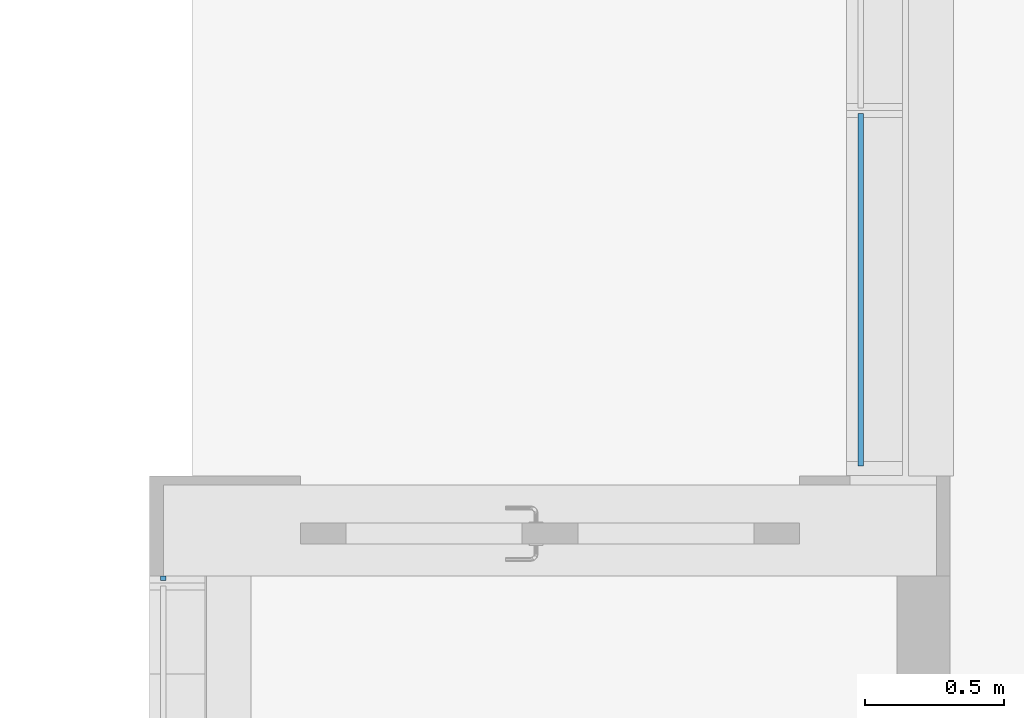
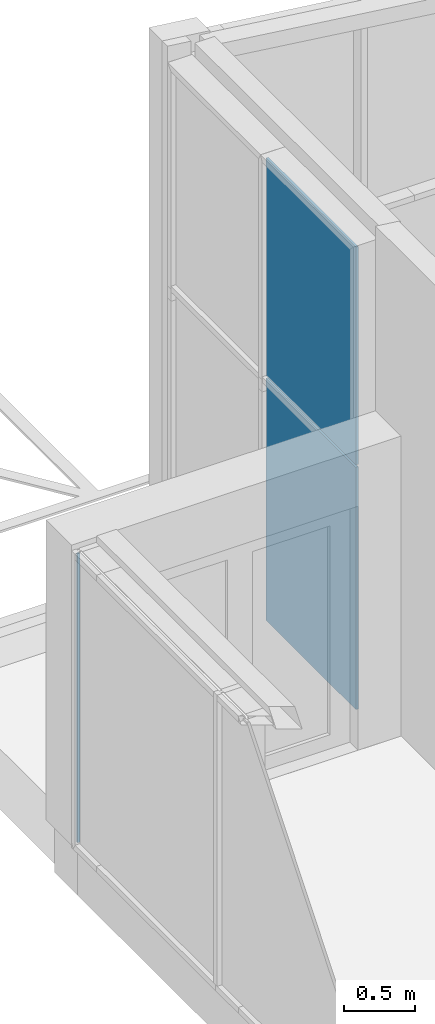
# One storey, part 78 of 301: 3 plates, 2 elements without a shape of their own.
"""IFC2X3 building model written with IfcOpenShell, lengths in millimetres."""

from ifc_helpers import new_model, entity, si_unit, converted_unit, derived_unit, money_unit, direction, frame, origin_with_axes, place, context, subcontext, project, spatial, faceted_brep, material, type_object, element, aggregate, save


model = new_model("IFC2X3")

# Units and contexts
model_context = context("Model", 3, precision=0.01, world=origin_with_axes(), true_north=direction((0.0, 1.0)))
body_context = subcontext(model_context, "Body", "Model", "MODEL_VIEW")
ifc_project = project(units=[si_unit("LENGTHUNIT", "METRE", prefix="MILLI"), si_unit("AREAUNIT", "SQUARE_METRE"), si_unit("VOLUMEUNIT", "CUBIC_METRE"), converted_unit("PLANEANGLEUNIT", "DEGREE", entity("IfcPlaneAngleMeasure", 0.0174532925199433), si_unit("PLANEANGLEUNIT", "RADIAN"), dimensions=[0, 0, 0, 0, 0, 0, 0]), money_unit("EUR"), converted_unit("TIMEUNIT", "Year", entity("IfcTimeMeasure", 31557600.0), si_unit("TIMEUNIT", "SECOND"), dimensions=[0, 0, 1, 0, 0, 0, 0]), si_unit("MASSUNIT", "GRAM", prefix="KILO"), si_unit("THERMODYNAMICTEMPERATUREUNIT", "DEGREE_CELSIUS"), si_unit("LUMINOUSINTENSITYUNIT", "LUMEN"), si_unit("ENERGYUNIT", "JOULE", prefix="MEGA"), derived_unit("THERMALCONDUCTANCEUNIT", [(si_unit("POWERUNIT", "WATT"), 1), (si_unit("LENGTHUNIT", "METRE"), -1), (si_unit("THERMODYNAMICTEMPERATUREUNIT", "KELVIN"), -1)]), derived_unit("SPECIFICHEATCAPACITYUNIT", [(si_unit("ENERGYUNIT", "JOULE"), 1), (si_unit("MASSUNIT", "GRAM", prefix="KILO"), -1), (si_unit("THERMODYNAMICTEMPERATUREUNIT", "KELVIN"), -1)]), derived_unit("MASSDENSITYUNIT", [(si_unit("MASSUNIT", "GRAM", prefix="KILO"), 1), (si_unit("VOLUMEUNIT", "CUBIC_METRE"), -1)])], contexts=[model_context])

# Site, building, storey
site_placement = place(None, frame((0.0, 0.0, 8650.0), z_axis=(0.0, 0.0, 1.0), x_axis=(1.0, 0.0, 0.0)))
site = spatial("IfcSite", under=ifc_project, at=site_placement, Name="43301:001:0844", CompositionType="ELEMENT")
building_placement = place(site_placement, origin_with_axes())
building = spatial("IfcBuilding", under=site, at=building_placement, Name="Kuressaare Ametikooli tuulikute mehaanikute õppekorpus", CompositionType="ELEMENT")
storey_placement = place(building_placement, origin_with_axes())
storey = spatial("IfcBuildingStorey", under=building, at=storey_placement, Name="1.korrus", CompositionType="ELEMENT", Elevation=0.0)

# Curtain wall, plate
curtain_wall_type = type_object("IfcCurtainWallType", Name="Curtain Wall Type", PredefinedType="NOTDEFINED")
curtain_wall_1_placement = place(storey_placement, frame((118344.5490393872, 39517.28066569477, -20.0), z_axis=(0.0, 0.0, 1.0), x_axis=(1.0, 0.0, 0.0)))
curtain_wall_1 = element("IfcCurtainWall", 1, at=curtain_wall_1_placement, inside=storey, type_object=curtain_wall_type, Name="KF-XX")
ifc_material = material(Name="Klaas")
plate_type_1 = type_object("IfcPlateType", Name="Main Panel 15 x 2485 x 20", PredefinedType="NOTDEFINED")
plate_1_placement = place(curtain_wall_1_placement, frame((0.0, 789.0288815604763, 1265.0000199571), z_axis=(0.0, 0.0, 1.0), x_axis=(0.0, 1.0, 0.0)))
plate_1 = element("IfcPlate", 2, at=plate_1_placement, type_object=plate_type_1, material=ifc_material, context=body_context, shape_type="Brep", body=[
    faceted_brep([(-2.475455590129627, -10.00000000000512, 1255.000026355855), (12.47544944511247, -10.00000000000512, 1255.000026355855), (12.47544944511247, 10.00000000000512, 1255.000026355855), (-2.475455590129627, 10.00000000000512, 1255.000026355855), (-2.475455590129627, -10.00000000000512, -1230.000004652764), (12.47544944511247, -10.00000000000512, -1230.000004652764), (12.47544944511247, 10.00000000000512, -1230.000004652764), (-2.475455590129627, 10.00000000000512, -1230.000004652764)], [[[0, 1, 2, 3]], [[0, 4, 5, 1]], [[1, 5, 6, 2]], [[3, 2, 6, 7]], [[4, 0, 3, 7]], [[5, 4, 7, 6]]]),
])
aggregate(curtain_wall_1, [plate_1])

# Curtain wall, plates
curtain_wall_2_placement = place(storey_placement, frame((120847.1885681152, 42644.61724537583, 0.0), z_axis=(0.0, 0.0, 1.0), x_axis=(1.0, 0.0, 0.0)))
curtain_wall_2 = element("IfcCurtainWall", 3, at=curtain_wall_2_placement, inside=storey, type_object=curtain_wall_type)
plate_type_2 = type_object("IfcPlateType", Name="Main Panel 1265 x 95 x 20", PredefinedType="NOTDEFINED")
plate_2_placement = place(curtain_wall_2_placement, frame((0.0, -1309.975266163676, 1385.000027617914), z_axis=(0.0, 0.0, 1.0), x_axis=(0.0, 1.0, 0.0)))
plate_2 = element("IfcPlate", 4, at=plate_2_placement, type_object=plate_type_2, material=ifc_material, context=body_context, shape_type="Brep", body=[
    faceted_brep([(-619.9752597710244, -9.999999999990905, 735.0000084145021), (644.9752592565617, -9.999999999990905, 735.0000084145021), (644.9752592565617, 10.00000000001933, 735.0000084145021), (-619.9752597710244, 10.00000000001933, 735.0000084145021), (-619.9752597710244, -9.999999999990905, 640.0000221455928), (-619.9752597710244, -9.999999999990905, -1350.000019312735), (644.9752592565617, -9.999999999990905, -1350.000019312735), (644.9752592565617, -9.999999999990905, 640.0000221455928), (644.9752592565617, 10.00000000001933, 640.0000221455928), (644.9752592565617, 10.00000000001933, -1350.000019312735), (-619.9752597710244, 10.00000000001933, -1350.000019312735), (-619.9752597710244, 10.00000000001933, 640.0000221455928)], [[[0, 1, 2, 3]], [[0, 4, 5, 6, 7, 1]], [[1, 7, 8, 2]], [[3, 2, 8, 9, 10, 11]], [[4, 0, 3, 11]], [[5, 4, 11, 10]], [[6, 5, 10, 9]], [[7, 6, 9, 8]]]),
])
plate_type_3 = type_object("IfcPlateType", Name="Main Panel 1265 x 1875 x 20", PredefinedType="NOTDEFINED")
plate_3_placement = place(curtain_wall_2_placement, frame((0.0, -1309.975266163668, 3090.000041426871), z_axis=(0.0, 0.0, 1.0), x_axis=(0.0, 1.0, 0.0)))
plate_3 = element("IfcPlate", 5, at=plate_3_placement, type_object=plate_type_3, material=ifc_material, context=body_context, shape_type="Brep", body=[
    faceted_brep([(-619.9752789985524, -10.00000000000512, 924.9999842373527), (644.9752661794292, -10.00000000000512, 924.9999842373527), (644.9752661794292, 10.00000000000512, 924.9999842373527), (-619.9752789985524, 10.00000000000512, 924.9999842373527), (-619.9752789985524, -10.00000000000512, -949.9999985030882), (644.9752661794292, -10.00000000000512, -949.9999985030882), (644.9752661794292, 10.00000000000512, -949.9999985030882), (-619.9752789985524, 10.00000000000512, -949.9999985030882)], [[[0, 1, 2, 3]], [[0, 4, 5, 1]], [[1, 5, 6, 2]], [[3, 2, 6, 7]], [[4, 0, 3, 7]], [[5, 4, 7, 6]]]),
])
aggregate(curtain_wall_2, [plate_3, plate_2])

save(model, "model.ifc")
